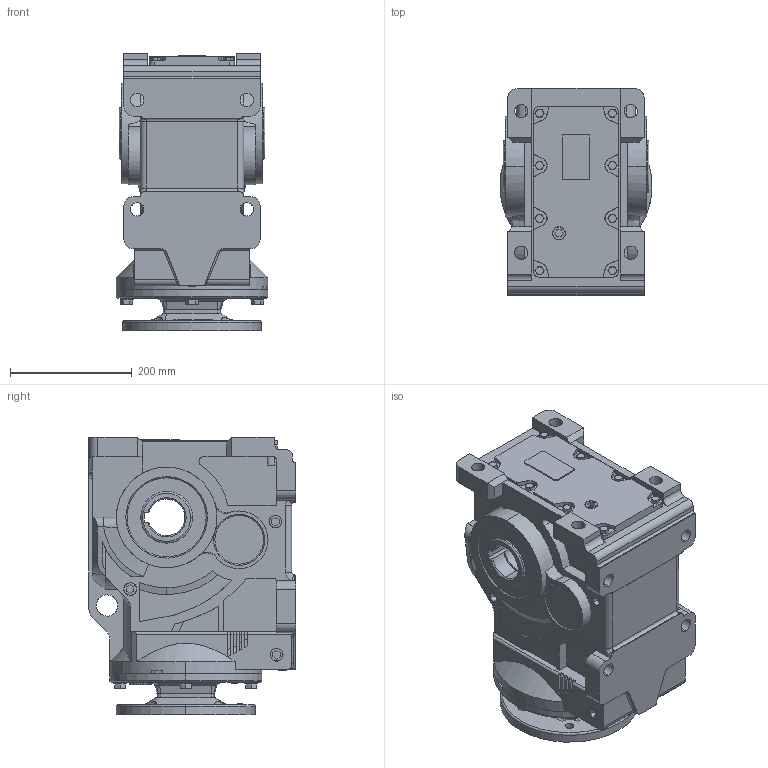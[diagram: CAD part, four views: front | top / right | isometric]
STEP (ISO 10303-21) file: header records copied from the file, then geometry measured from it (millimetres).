
FILE_DESCRIPTION (( 'STEP AP203' ), '1' );
FILE_NAME ('KHN87-182-4TC.STEP', '2022-04-08T02:37:48', ( 'user1' ), ( '' ), 'SwSTEP 2.0', 'SolidWorks 2012', '' );
FILE_SCHEMA (( 'CONFIG_CONTROL_DESIGN' ));
Products named in the file (3): KHN87-182-4TC; 87型-182T; KHN87
Assembly tree (2 placements, depth 2):
  KHN87-182-4TC
    KHN87
    87型-182T
Bounding box: 250 x 340.5 x 457 mm (x, y, z)
Volume: 22929597.5 mm3; surface area: 963492.5 mm2
Topology: 2 solids, 28 shells, 1309 faces, 3334 edges, 2149 vertices
Faces by surface type: plane 611, cylinder 336, cone 194, bspline 149, torus 19
Entity records: 54036 total; most frequent: CARTESIAN_POINT 22877, ORIENTED_EDGE 6604, DIRECTION 6013, EDGE_CURVE 3302, VERTEX_POINT 2149, AXIS2_PLACEMENT_3D 2101, VECTOR 1811, LINE 1811
